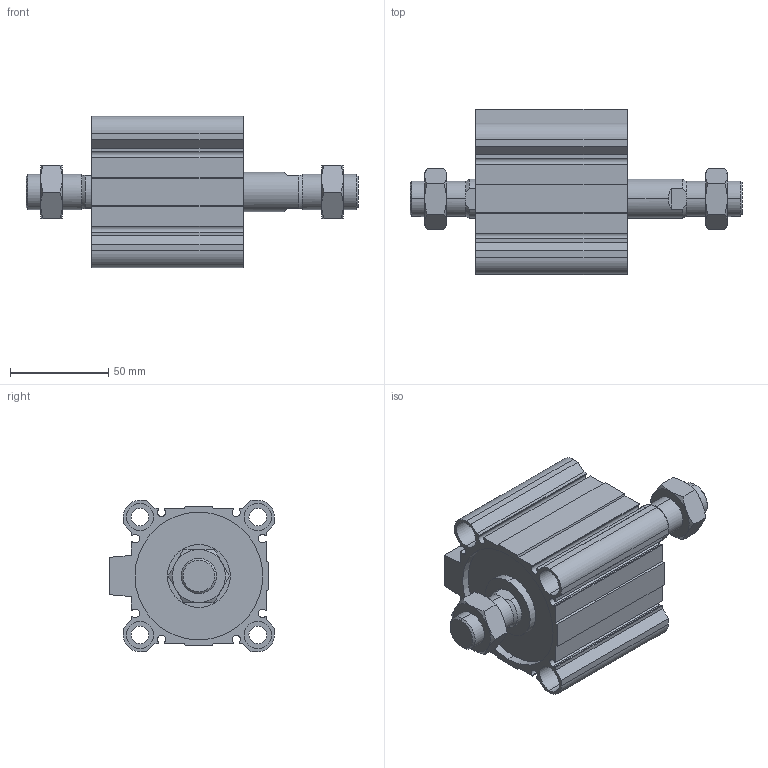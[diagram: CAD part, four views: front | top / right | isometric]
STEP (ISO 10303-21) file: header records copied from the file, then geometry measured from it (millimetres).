
FILE_DESCRIPTION (( 'STEP AP203' ), '1' );
FILE_NAME ('CCMB63-25M-P.STEP', '2020-08-10T11:49:42', ( '' ), ( '' ), 'SwSTEP 2.0', 'SolidWorks 2019', '' );
FILE_SCHEMA (( 'CONFIG_CONTROL_DESIGN' ));
Length unit declared in the file: millimetre
Products named in the file (1): CCMB63-25M-P
Bounding box: 169 x 84 x 77 mm (x, y, z)
Volume: 316419.3 mm3; surface area: 96550.5 mm2
Topology: 4 solids, 4 shells, 232 faces, 570 edges, 364 vertices
Faces by surface type: plane 110, cylinder 78, cone 44
Entity records: 7569 total; most frequent: CARTESIAN_POINT 1939, DIRECTION 1176, ORIENTED_EDGE 1140, EDGE_CURVE 570, AXIS2_PLACEMENT_3D 437, VERTEX_POINT 364, VECTOR 302, LINE 302
